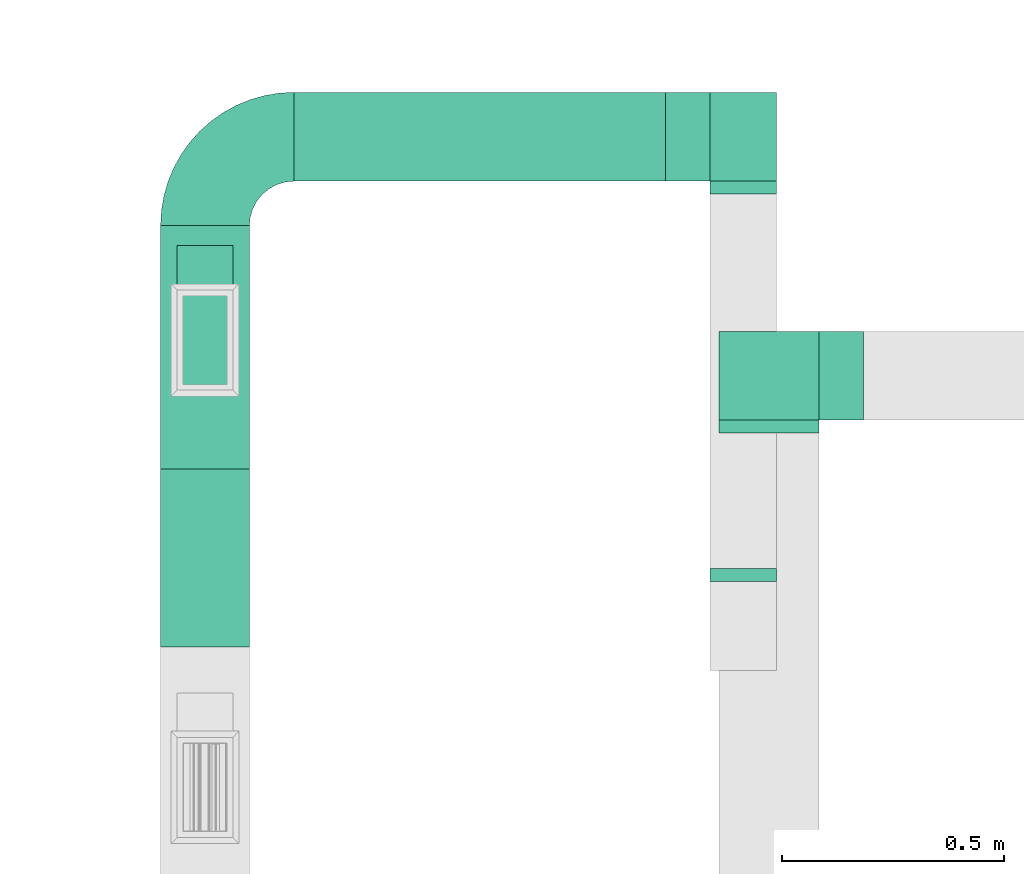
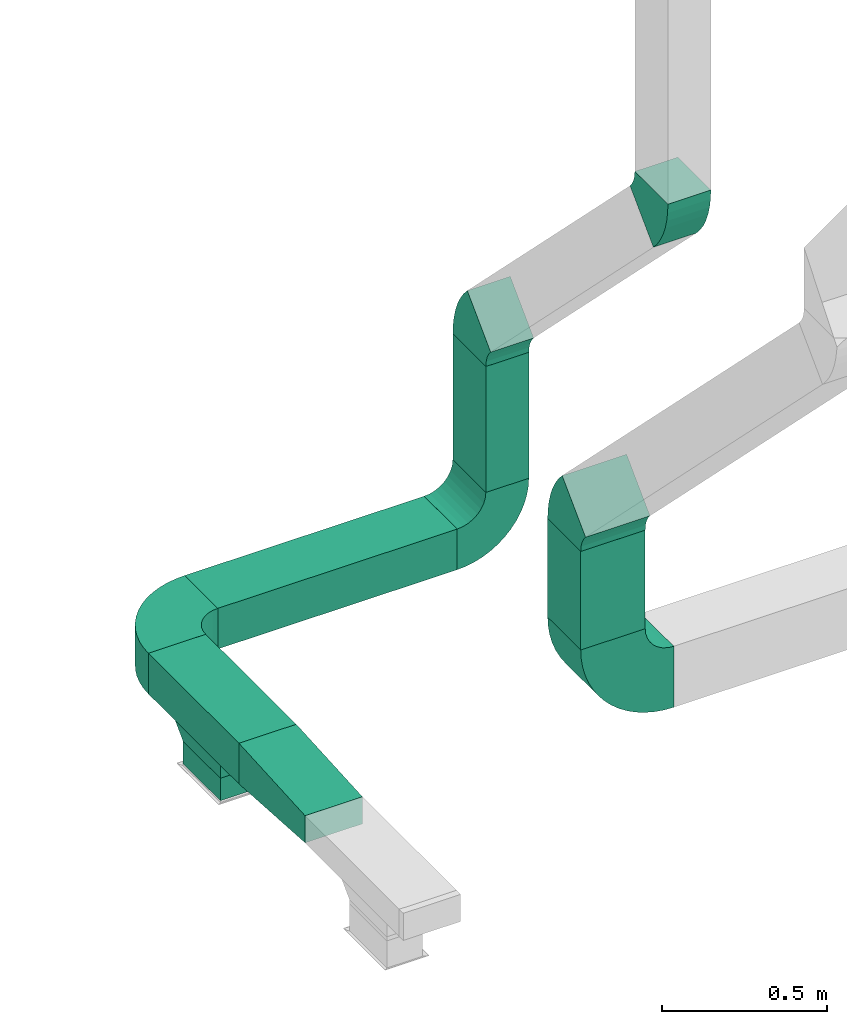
# One storey, part 9 of 22: 8 flow fittings, 5 flow segments.
"""IFC2X3 building model written with IfcOpenShell, lengths in millimetres."""

from ifc_helpers import new_model, entity, si_unit, converted_unit, derived_unit, direction, frame, frame_2d, origin, origin_2d_with_axis, place, context, subcontext, project, spatial, polyline, circle_curve, parameter, trimmed, segment, composite_curve, rectangle, outline, extrude, source, transform, mapped, material, type_object, type_shapes, element, save


model = new_model("IFC2X3")

# Units and contexts
model_context = context("Model", 3, precision=0.01, world=origin(), true_north=direction((6.123233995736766e-17, 1.0)))
body_context = subcontext(model_context, "Body", "Model", "MODEL_VIEW")
ifc_project = project(units=[si_unit("LENGTHUNIT", "METRE", prefix="MILLI"), converted_unit("PLANEANGLEUNIT", "DEGREE", entity("IfcPlaneAngleMeasure", 0.017453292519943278), si_unit("PLANEANGLEUNIT", "RADIAN"), dimensions=[0, 0, 0, 0, 0, 0, 0]), si_unit("AREAUNIT", "SQUARE_METRE"), derived_unit("THERMALTRANSMITTANCEUNIT", [(si_unit("MASSUNIT", "GRAM", prefix="KILO"), 1), (si_unit("THERMODYNAMICTEMPERATUREUNIT", "KELVIN"), -1), (si_unit("TIMEUNIT", "SECOND"), -3)])], contexts=[model_context])

# Site, building, storey
site_placement = place(None, origin())
site = spatial("IfcSite", under=ifc_project, at=site_placement, Name="Default", CompositionType="ELEMENT")
building_placement = place(site_placement, origin())
building = spatial("IfcBuilding", under=site, at=building_placement, Name="Praça Pedro II, 1301 - Centro (Sul), Teresina - PI, 64001-100", CompositionType="ELEMENT")
storey_placement = place(building_placement, frame((0.0, 0.0, 320.0)))
storey = spatial("IfcBuildingStorey", under=building, at=storey_placement, Name="TÉRREO +0.32m", CompositionType="ELEMENT", Elevation=319.99999999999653)

# Flow segments
duct_segment_type = type_object("IfcDuctSegmentType", Name="Duto retangular:Raios cotovelos / torneiras", PredefinedType="NOTDEFINED")
flow_segment_1_placement = place(storey_placement, origin())
element("IfcFlowSegment", 1, at=flow_segment_1_placement, inside=storey, type_object=duct_segment_type, Name="Duto retangular:Raios cotovelos / torneiras", ObjectType="Duto retangular:Raios cotovelos / torneiras", context=body_context, shape_type="SweptSolid", body=[
    extrude(rectangle(XDim=225.00000000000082, YDim=200.0000000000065, at=frame_2d((0.0, 8.668621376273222e-12), x_axis=(1.0, 0.0))), frame((21648.660162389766, -52054.62602949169, 2312.499999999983)), (0.0, 0.0, 1.0), 363.5406197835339),
])
flow_segment_2_placement = place(storey_placement, origin())
element("IfcFlowSegment", 2, at=flow_segment_2_placement, inside=storey, type_object=duct_segment_type, Name="Duto retangular:Raios cotovelos / torneiras", ObjectType="Duto retangular:Raios cotovelos / torneiras", context=body_context, shape_type="SweptSolid", body=[
    extrude(rectangle(XDim=547.5689508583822, YDim=199.99999999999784, at=origin_2d_with_axis()), frame((20379.809130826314, -51990.71625108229, 2325.0), z_axis=(0.0, 0.0, 1.0), x_axis=(0.0, 1.0, 0.0)), (0.0, 0.0, 1.0), 150.00000000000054),
])
flow_segment_3_placement = place(storey_placement, origin())
element("IfcFlowSegment", 3, at=flow_segment_3_placement, inside=storey, type_object=duct_segment_type, Name="Duto retangular:Raios cotovelos / torneiras", ObjectType="Duto retangular:Raios cotovelos / torneiras", context=body_context, shape_type="SweptSolid", body=[
    extrude(rectangle(XDim=124.99999999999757, YDim=225.00000000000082, at=origin_2d_with_axis()), frame((20379.809130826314, -51974.62602949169, 2142.0000005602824)), (0.0, 0.0, 1.0), 82.99999943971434),
])
flow_segment_4_placement = place(storey_placement, origin())
element("IfcFlowSegment", 4, at=flow_segment_4_placement, inside=storey, type_object=duct_segment_type, Name="Duto retangular:Raios cotovelos / torneiras", ObjectType="Duto retangular:Raios cotovelos / torneiras", context=body_context, shape_type="SweptSolid", body=[
    extrude(rectangle(XDim=835.6985407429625, YDim=199.99999999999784, at=frame_2d((-2.1884716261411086e-12, 0.0), x_axis=(1.0, 0.0))), frame((20997.658401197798, -51516.9317756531, 2325.0)), (0.0, 0.0, 1.0), 150.00000000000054),
])
flow_segment_5_placement = place(storey_placement, origin())
element("IfcFlowSegment", 5, at=flow_segment_5_placement, inside=storey, type_object=duct_segment_type, Name="Duto retangular:Raios cotovelos / torneiras", ObjectType="Duto retangular:Raios cotovelos / torneiras", context=body_context, shape_type="SweptSolid", body=[
    extrude(rectangle(XDim=150.00000000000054, YDim=200.0000000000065, at=origin_2d_with_axis()), frame((21590.507671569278, -51516.93177565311, 2575.0), z_axis=(0.0, 0.0, 1.0), x_axis=(-1.0, 0.0, 0.0)), (0.0, 0.0, 1.0), 464.79000041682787),
])

# Flow fittings
ifc_material = material(Name="<Unnamed>")
duct_fitting_type_1 = type_object("IfcDuctFittingType", Name="M_Rectangular Transition - L:400 mm (L)", PredefinedType="NOTDEFINED", material=ifc_material)
shared_shape_1 = source(origin(), body_context, "Body", "SweptSolid", [
    extrude(outline(polyline([(-196.4916013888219, -62.3782861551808), (204.28888715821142, -62.3782861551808), (194.932144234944, 87.3296006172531), (-202.72943000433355, 37.42697169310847), (-196.4916013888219, -62.3782861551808)])), frame((200.0, -100.0, 0.0), z_axis=(0.0, 1.0, 0.0), x_axis=(0.9980525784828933, 0.0, 0.062378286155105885)), (0.0, 0.0, 1.0), 199.99999999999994),
])
type_shapes(duct_fitting_type_1, [shared_shape_1])
flow_fitting_1_placement = place(storey_placement, frame((20379.809130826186, -52664.5007265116, 2400.0), z_axis=(0.0, 0.0, 1.0), x_axis=(0.0, 1.0, 0.0)))
element("IfcFlowFitting", 6, at=flow_fitting_1_placement, inside=storey, type_object=duct_fitting_type_1, material=ifc_material, Name="M_Rectangular Transition - L:400 mm (L)", ObjectType="M_Rectangular Transition - L:400 mm (L)", context=body_context, shape_type="MappedRepresentation", body=[
    mapped(shared_shape_1, transform((0.0, 0.0, 0.0), scale=1.0)),
])
duct_fitting_type_2 = type_object("IfcDuctFittingType", Name="BTS vanes:1 Splitter Vanes", PredefinedType="NOTDEFINED", material=ifc_material)
shared_shape_2 = source(origin(), body_context, "Body", "SweptSolid", [
    extrude(outline(composite_curve([segment(polyline([(-200.0, -100.0), (0.0, -100.0)]), True, "CONTINUOUS"), segment(trimmed(circle_curve(frame_2d((100.0, -100.0), x_axis=(0.0, 1.0)), 99.99999999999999), [parameter(0.0)], [parameter(90.00000000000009)], True, "PARAMETER"), False, "CONTINUOUS"), segment(polyline([(100.0, 0.0), (100.0, 200.0)]), True, "CONTINUOUS"), segment(trimmed(circle_curve(frame_2d((100.0, -100.0), x_axis=(0.0, 1.0)), 300.0), [parameter(0.0)], [parameter(90.00000000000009)], True, "PARAMETER"), True, "CONTINUOUS")], self_intersect=False)), frame((-100.0, 100.0, -75.0), z_axis=(0.0, 0.0, 1.0), x_axis=(-1.0, 0.0, 0.0)), (0.0, 0.0, 1.0), 150.0),
    extrude(outline(composite_curve([segment(polyline([(-77.63157894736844, -59.21052631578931), (-40.789473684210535, -59.21052631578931)]), True, "CONTINUOUS"), segment(trimmed(circle_curve(frame_2d((59.21052631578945, -59.21052631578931), x_axis=(0.0, 1.0)), 99.99999999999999), [parameter(0.0)], [parameter(90.00000000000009)], True, "PARAMETER"), False, "CONTINUOUS"), segment(polyline([(59.21052631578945, 40.78947368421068), (59.21052631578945, 77.63157894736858)]), True, "CONTINUOUS"), segment(trimmed(circle_curve(frame_2d((59.21052631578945, -59.21052631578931), x_axis=(0.0, 1.0)), 136.84210526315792), [parameter(0.0)], [parameter(90.00000000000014)], True, "PARAMETER"), True, "CONTINUOUS")], self_intersect=False)), frame((-140.78947368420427, 140.78947368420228, -75.0), z_axis=(0.0, 0.0, 1.0), x_axis=(-1.0, 0.0, 0.0)), (0.0, 0.0, 1.0), 150.0),
])
type_shapes(duct_fitting_type_2, [shared_shape_2])
flow_fitting_2_placement = place(storey_placement, frame((20379.809130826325, -51516.93177565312, 2400.0), z_axis=(0.0, 0.0, 1.0), x_axis=(-1.0, 0.0, 0.0)))
element("IfcFlowFitting", 7, at=flow_fitting_2_placement, inside=storey, type_object=duct_fitting_type_2, material=ifc_material, Name="BTS vanes:1 Splitter Vanes", ObjectType="BTS vanes:1 Splitter Vanes", context=body_context, shape_type="MappedRepresentation", body=[
    mapped(shared_shape_2, transform((0.0, 0.0, 0.0), scale=1.0)),
])
duct_fitting_type_3 = type_object("IfcDuctFittingType", Name="M_Rectangular Tap - Beveled:Standard", PredefinedType="NOTDEFINED", material=ifc_material)
shared_shape_3 = source(origin(), body_context, "Body", "SweptSolid", [
    extrude(outline(polyline([(-62.43839999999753, -175.0), (43.65760000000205, -175.0), (43.65760000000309, 150.0), (37.56160000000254, 150.0), (-62.43839999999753, 50.0), (-62.43839999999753, -175.0)])), frame((37.56160000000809, -62.50000000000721, -62.49999999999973), z_axis=(0.0, 0.0, 1.0), x_axis=(-1.0, 0.0, 0.0)), (0.0, 0.0, 1.0), 124.99999999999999),
])
type_shapes(duct_fitting_type_3, [shared_shape_3])
flow_fitting_3_placement = place(storey_placement, frame((20379.809130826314, -51974.62602949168, 2325.0), z_axis=(-1.0, 0.0, 0.0), x_axis=(0.0, 0.0, -1.0)))
element("IfcFlowFitting", 8, at=flow_fitting_3_placement, inside=storey, type_object=duct_fitting_type_3, material=ifc_material, Name="M_Rectangular Tap - Beveled:Standard", ObjectType="M_Rectangular Tap - Beveled:Standard", context=body_context, shape_type="MappedRepresentation", body=[
    mapped(shared_shape_3, transform((0.0, 0.0, 0.0), scale=1.0)),
])
duct_fitting_type_4 = type_object("IfcDuctFittingType", Name="BTS vanes:1 Splitter Vanes", PredefinedType="NOTDEFINED", material=ifc_material)
shared_shape_4 = source(origin(), body_context, "Body", "SweptSolid", [
    extrude(outline(composite_curve([segment(polyline([(-218.74999999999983, -106.24999999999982), (6.25000000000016, -106.24999999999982)]), True, "CONTINUOUS"), segment(trimmed(circle_curve(frame_2d((106.25000000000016, -106.24999999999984), x_axis=(0.0, 1.0)), 99.99999999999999), [parameter(0.0)], [parameter(89.99999999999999)], True, "PARAMETER"), False, "CONTINUOUS"), segment(polyline([(106.25000000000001, -6.249999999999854), (106.24999999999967, 218.75000000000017)]), True, "CONTINUOUS"), segment(trimmed(circle_curve(frame_2d((106.25000000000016, -106.24999999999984), x_axis=(0.0, 1.0)), 325.0), [parameter(0.0)], [parameter(89.99999999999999)], True, "PARAMETER"), True, "CONTINUOUS")], self_intersect=False)), frame((-106.2499999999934, 106.24999999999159, -100.0), z_axis=(0.0, 0.0, 1.0), x_axis=(-1.0, 0.0, 0.0)), (0.0, 0.0, 1.0), 200.0),
    extrude(outline(composite_curve([segment(polyline([(-77.63157894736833, -59.210526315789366), (-40.78947368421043, -59.21052631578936)]), True, "CONTINUOUS"), segment(trimmed(circle_curve(frame_2d((59.21052631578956, -59.21052631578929), x_axis=(0.0, 1.0)), 99.99999999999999), [parameter(0.0)], [parameter(90.00000000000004)], True, "PARAMETER"), False, "CONTINUOUS"), segment(polyline([(59.21052631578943, 40.7894736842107), (59.210526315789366, 77.63157894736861)]), True, "CONTINUOUS"), segment(trimmed(circle_curve(frame_2d((59.21052631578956, -59.21052631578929), x_axis=(0.0, 1.0)), 136.8421052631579), [parameter(0.0)], [parameter(89.99999999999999)], True, "PARAMETER"), True, "CONTINUOUS")], self_intersect=False)), frame((-153.28947368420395, 153.2894736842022, -100.0), z_axis=(0.0, 0.0, 1.0), x_axis=(-1.0, 0.0, 0.0)), (0.0, 0.0, 1.0), 200.0),
])
type_shapes(duct_fitting_type_4, [shared_shape_4])
flow_fitting_4_placement = place(storey_placement, frame((21648.660162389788, -52054.62602949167, 2100.0), z_axis=(0.0, 1.0, 0.0), x_axis=(-1.0, 0.0, 0.0)))
element("IfcFlowFitting", 9, at=flow_fitting_4_placement, inside=storey, type_object=duct_fitting_type_4, material=ifc_material, Name="BTS vanes:1 Splitter Vanes", ObjectType="BTS vanes:1 Splitter Vanes", context=body_context, shape_type="MappedRepresentation", body=[
    mapped(shared_shape_4, transform((0.0, 0.0, 0.0), scale=1.0)),
])
duct_fitting_type_5 = type_object("IfcDuctFittingType", Name="BTS vanes:1 Splitter Vanes", PredefinedType="NOTDEFINED", material=ifc_material)
shared_shape_5 = source(origin(), body_context, "Body", "SweptSolid", [
    extrude(outline(composite_curve([segment(polyline([(-129.28932188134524, -70.7106781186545), (70.71067811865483, -70.71067811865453)]), True, "CONTINUOUS"), segment(trimmed(circle_curve(frame_2d((170.7106781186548, -70.71067811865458), x_axis=(-0.7071067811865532, 0.7071067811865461)), 99.99999999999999), [parameter(0.0)], [parameter(44.99999999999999)], True, "PARAMETER"), False, "CONTINUOUS"), segment(polyline([(100.0, 0.0), (-41.42135623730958, 141.42135623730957)]), True, "CONTINUOUS"), segment(trimmed(circle_curve(frame_2d((170.7106781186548, -70.71067811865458), x_axis=(-0.7071067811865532, 0.7071067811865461)), 300.0), [parameter(0.0)], [parameter(44.99999999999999)], True, "PARAMETER"), True, "CONTINUOUS")], self_intersect=False)), frame((-12.132034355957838, 29.289321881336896, -112.50000000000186), z_axis=(0.0, 0.0, 1.0), x_axis=(-0.7071067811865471, 0.7071067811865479, 0.0)), (0.0, 0.0, 1.0), 225.00000000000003),
    extrude(outline(composite_curve([segment(polyline([(-35.763414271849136, -41.86816467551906), (1.078690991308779, -41.86816467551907)]), True, "CONTINUOUS"), segment(trimmed(circle_curve(frame_2d((101.07869099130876, -41.86816467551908), x_axis=(-0.707106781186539, 0.7071067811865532)), 99.99999999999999), [parameter(0.0)], [parameter(44.99999999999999)], True, "PARAMETER"), False, "CONTINUOUS"), segment(polyline([(30.36801287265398, 28.842513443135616), (4.3167104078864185, 54.89381590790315)]), True, "CONTINUOUS"), segment(trimmed(circle_curve(frame_2d((101.07869099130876, -41.86816467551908), x_axis=(-0.707106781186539, 0.7071067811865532)), 136.84210526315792), [parameter(0.0)], [parameter(44.99999999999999)], True, "PARAMETER"), True, "CONTINUOUS")], self_intersect=False)), frame((-40.97454779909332, 98.92130900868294, -112.50000000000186), z_axis=(0.0, 0.0, 1.0), x_axis=(-0.7071067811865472, 0.7071067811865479, 0.0)), (0.0, 0.0, 1.0), 225.00000000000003),
])
type_shapes(duct_fitting_type_5, [shared_shape_5])
flow_fitting_5_placement = place(storey_placement, frame((21648.660162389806, -52054.626029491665, 2758.8833322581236), z_axis=(1.0, 0.0, 0.0), x_axis=(0.0, 0.0, 1.0)))
element("IfcFlowFitting", 10, at=flow_fitting_5_placement, inside=storey, type_object=duct_fitting_type_5, material=ifc_material, Name="BTS vanes:1 Splitter Vanes", ObjectType="BTS vanes:1 Splitter Vanes", context=body_context, shape_type="MappedRepresentation", body=[
    mapped(shared_shape_5, transform((0.0, 0.0, 0.0), scale=1.0)),
])
duct_fitting_type_6 = type_object("IfcDuctFittingType", Name="BTS vanes:1 Splitter Vanes", PredefinedType="NOTDEFINED", material=ifc_material)
shared_shape_6 = source(origin(), body_context, "Body", "SweptSolid", [
    extrude(outline(composite_curve([segment(polyline([(-162.49999999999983, -87.49999999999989), (-12.499999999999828, -87.49999999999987)]), True, "CONTINUOUS"), segment(trimmed(circle_curve(frame_2d((87.50000000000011, -87.4999999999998), x_axis=(0.0, 1.0)), 99.99999999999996), [parameter(0.0)], [parameter(89.99999999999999)], True, "PARAMETER"), False, "CONTINUOUS"), segment(polyline([(87.49999999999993, 12.500000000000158), (87.49999999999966, 162.50000000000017)]), True, "CONTINUOUS"), segment(trimmed(circle_curve(frame_2d((87.50000000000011, -87.4999999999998), x_axis=(0.0, 1.0)), 250.00000000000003), [parameter(0.0)], [parameter(89.99999999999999)], True, "PARAMETER"), True, "CONTINUOUS")], self_intersect=False)), frame((-87.49999999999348, 87.4999999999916, -100.0), z_axis=(0.0, 0.0, 1.0), x_axis=(-1.0, 0.0, 0.0)), (0.0, 0.0, 1.0), 200.0),
    extrude(outline(composite_curve([segment(polyline([(-77.63157894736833, -59.21052631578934), (-40.78947368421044, -59.21052631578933)]), True, "CONTINUOUS"), segment(trimmed(circle_curve(frame_2d((59.21052631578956, -59.21052631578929), x_axis=(0.0, 1.0)), 100.0), [parameter(0.0)], [parameter(90.00000000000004)], True, "PARAMETER"), False, "CONTINUOUS"), segment(polyline([(59.21052631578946, 40.789473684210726), (59.210526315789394, 77.63157894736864)]), True, "CONTINUOUS"), segment(trimmed(circle_curve(frame_2d((59.21052631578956, -59.21052631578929), x_axis=(0.0, 1.0)), 136.8421052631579), [parameter(0.0)], [parameter(89.99999999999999)], True, "PARAMETER"), True, "CONTINUOUS")], self_intersect=False)), frame((-115.78947368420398, 115.78947368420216, -100.0), z_axis=(0.0, 0.0, 1.0), x_axis=(-1.0, 0.0, 0.0)), (0.0, 0.0, 1.0), 200.0),
])
type_shapes(duct_fitting_type_6, [shared_shape_6])
flow_fitting_6_placement = place(storey_placement, frame((21590.507671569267, -51516.93177565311, 2400.0), z_axis=(0.0, -1.0, 0.0), x_axis=(1.0, 0.0, 0.0)))
element("IfcFlowFitting", 11, at=flow_fitting_6_placement, inside=storey, type_object=duct_fitting_type_6, material=ifc_material, Name="BTS vanes:1 Splitter Vanes", ObjectType="BTS vanes:1 Splitter Vanes", context=body_context, shape_type="MappedRepresentation", body=[
    mapped(shared_shape_6, transform((0.0, 0.0, 0.0), scale=1.0)),
])
duct_fitting_type_7 = type_object("IfcDuctFittingType", Name="BTS vanes:1 Splitter Vanes", PredefinedType="NOTDEFINED", material=ifc_material)
shared_shape_7 = source(origin(), body_context, "Body", "SweptSolid", [
    extrude(outline(composite_curve([segment(polyline([(-129.28932188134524, -70.7106781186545), (70.71067811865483, -70.71067811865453)]), True, "CONTINUOUS"), segment(trimmed(circle_curve(frame_2d((170.7106781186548, -70.71067811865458), x_axis=(-0.7071067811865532, 0.7071067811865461)), 99.99999999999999), [parameter(0.0)], [parameter(44.99999999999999)], True, "PARAMETER"), False, "CONTINUOUS"), segment(polyline([(100.0, 0.0), (-41.42135623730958, 141.42135623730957)]), True, "CONTINUOUS"), segment(trimmed(circle_curve(frame_2d((170.7106781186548, -70.71067811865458), x_axis=(-0.7071067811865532, 0.7071067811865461)), 300.0), [parameter(0.0)], [parameter(44.99999999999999)], True, "PARAMETER"), True, "CONTINUOUS")], self_intersect=False)), frame((-12.132034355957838, 29.289321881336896, -75.0), z_axis=(0.0, 0.0, 1.0), x_axis=(-0.7071067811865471, 0.7071067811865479, 0.0)), (0.0, 0.0, 1.0), 150.0),
    extrude(outline(composite_curve([segment(polyline([(-35.763414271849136, -41.86816467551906), (1.078690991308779, -41.86816467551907)]), True, "CONTINUOUS"), segment(trimmed(circle_curve(frame_2d((101.07869099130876, -41.86816467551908), x_axis=(-0.707106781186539, 0.7071067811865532)), 99.99999999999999), [parameter(0.0)], [parameter(44.99999999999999)], True, "PARAMETER"), False, "CONTINUOUS"), segment(polyline([(30.36801287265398, 28.842513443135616), (4.3167104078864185, 54.89381590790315)]), True, "CONTINUOUS"), segment(trimmed(circle_curve(frame_2d((101.07869099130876, -41.86816467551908), x_axis=(-0.707106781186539, 0.7071067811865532)), 136.84210526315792), [parameter(0.0)], [parameter(44.99999999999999)], True, "PARAMETER"), True, "CONTINUOUS")], self_intersect=False)), frame((-40.97454779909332, 98.92130900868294, -75.0), z_axis=(0.0, 0.0, 1.0), x_axis=(-0.7071067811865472, 0.7071067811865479, 0.0)), (0.0, 0.0, 1.0), 150.0),
])
type_shapes(duct_fitting_type_7, [shared_shape_7])
for number, where, z_axis, x_axis, name in (
    (12, (21590.507671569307, -52617.49886481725, 4223.199802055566), (1.0, 0.0, 0.0), (0.0, 0.0, -1.0), "BTS vanes:1 Splitter Vanes"),
    (13, (21590.507671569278, -51516.93177565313, 3122.6327128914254), (1.0, 0.0, 0.0), (0.0, 0.0, 1.0), "BTS vanes:1 Splitter Vanes"),
):
    element("IfcFlowFitting", number, at=place(storey_placement, frame(where, z_axis=z_axis, x_axis=x_axis)), inside=storey, type_object=duct_fitting_type_7, material=ifc_material, Name=name, ObjectType="BTS vanes:1 Splitter Vanes", context=body_context, shape_type="MappedRepresentation", body=[
        mapped(shared_shape_7, transform((0.0, 0.0, 0.0), scale=1.0)),
    ])

save(model, "model.ifc")
